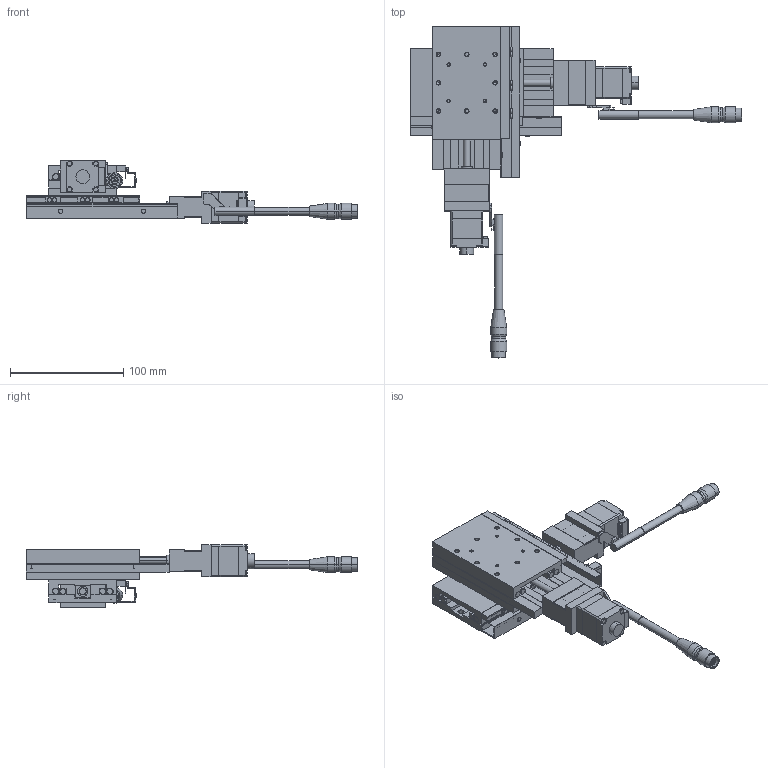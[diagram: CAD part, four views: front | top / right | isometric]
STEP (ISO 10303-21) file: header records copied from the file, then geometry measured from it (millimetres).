
FILE_DESCRIPTION(('STEP AP203'),'1');
FILE_NAME('C:/3D-Trans/3D_PMG650T-R□-C+240122.step','2024-02-27T00:29:42',(' '),(' '),'Spatial InterOp 3D',' ',' ');
FILE_SCHEMA(('CONFIG_CONTROL_DESIGN'));
Length unit declared in the file: millimetre
Products named in the file (13): 1; 2; 3; 4; 5; 6; 7; 8; 9; 10; 11; 12; 13
Bounding box: 292.5 x 292.5 x 55 mm (x, y, z)
Volume: 370011.9 mm3; surface area: 167703.2 mm2
Topology: 13 solids, 13 shells, 1320 faces, 3296 edges, 2086 vertices
Faces by surface type: plane 736, cylinder 436, cone 148
Entity records: 39638 total; most frequent: DIRECTION 6996, CARTESIAN_POINT 6681, ORIENTED_EDGE 6512, EDGE_CURVE 3256, AXIS2_PLACEMENT_3D 2409, LINE 2178, VECTOR 2178, VERTEX_POINT 2086
